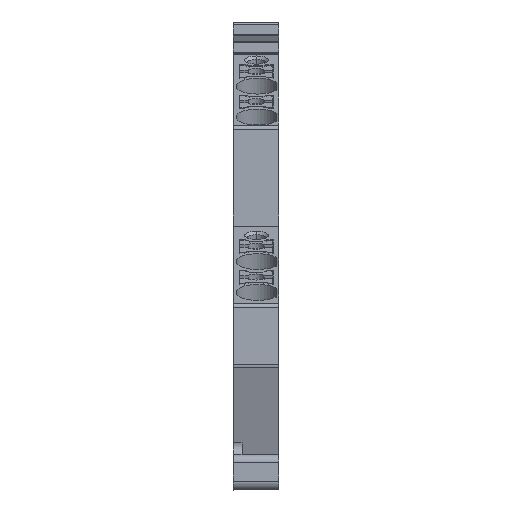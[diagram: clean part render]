
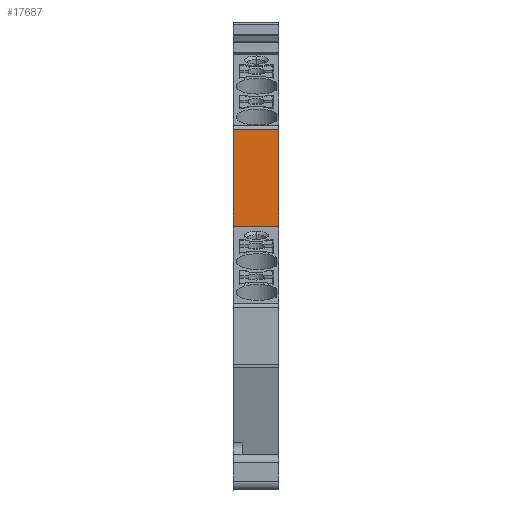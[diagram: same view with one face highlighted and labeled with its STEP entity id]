
A CAD part, front view. The second image highlights one B-rep face of the part: STEP entity #17687.
In plain terms, the highlighted planar face has unit normal (0, -1, 0).
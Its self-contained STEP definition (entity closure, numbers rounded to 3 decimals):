
#175 = EDGE_LOOP ( 'NONE', ( #16753, #10204, #11575, #20588 ) ) ;
#764 = LINE ( 'NONE', #19160, #9805 ) ;
#1298 = CARTESIAN_POINT ( 'NONE',  ( 5.15, 24.371, 29.891 ) ) ;
#1307 = LINE ( 'NONE', #10101, #14283 ) ;
#1752 = EDGE_CURVE ( 'NONE', #18886, #21606, #1307, .T. ) ;
#2639 = DIRECTION ( 'NONE',  ( -1., 0., 0. ) ) ;
#3005 = DIRECTION ( 'NONE',  ( 1., 0., 0. ) ) ;
#3350 = VERTEX_POINT ( 'NONE', #21467 ) ;
#4081 = DIRECTION ( 'NONE',  ( 0., 0., -1. ) ) ;
#4195 = FACE_OUTER_BOUND ( 'NONE', #175, .T. ) ;
#5467 = AXIS2_PLACEMENT_3D ( 'NONE', #7975, #22481, #4081 ) ;
#6542 = VECTOR ( 'NONE', #22495, 1000. ) ;
#7975 = CARTESIAN_POINT ( 'NONE',  ( 2.575, 24.371, 35.356 ) ) ;
#8331 = CARTESIAN_POINT ( 'NONE',  ( 5.15, 24.371, 40.821 ) ) ;
#9157 = EDGE_CURVE ( 'NONE', #17533, #21606, #18916, .T. ) ;
#9805 = VECTOR ( 'NONE', #3005, 1000. ) ;
#10101 = CARTESIAN_POINT ( 'NONE',  ( 0., 24.371, 40.821 ) ) ;
#10204 = ORIENTED_EDGE ( 'NONE', *, *, #21758, .F. ) ;
#10524 = CARTESIAN_POINT ( 'NONE',  ( 0., 24.371, 29.891 ) ) ;
#10974 = CARTESIAN_POINT ( 'NONE',  ( 5.15, 24.371, 29.891 ) ) ;
#11575 = ORIENTED_EDGE ( 'NONE', *, *, #1752, .T. ) ;
#11802 = LINE ( 'NONE', #8331, #6542 ) ;
#14283 = VECTOR ( 'NONE', #19151, 1000. ) ;
#16753 = ORIENTED_EDGE ( 'NONE', *, *, #20345, .F. ) ;
#17533 = VERTEX_POINT ( 'NONE', #10974 ) ;
#17687 = ADVANCED_FACE ( 'NONE', ( #4195 ), #20721, .T. ) ;
#18886 = VERTEX_POINT ( 'NONE', #20822 ) ;
#18916 = LINE ( 'NONE', #1298, #20636 ) ;
#19151 = DIRECTION ( 'NONE',  ( 0., 0., -1. ) ) ;
#19160 = CARTESIAN_POINT ( 'NONE',  ( 0., 24.371, 40.821 ) ) ;
#20345 = EDGE_CURVE ( 'NONE', #3350, #17533, #11802, .T. ) ;
#20588 = ORIENTED_EDGE ( 'NONE', *, *, #9157, .F. ) ;
#20636 = VECTOR ( 'NONE', #2639, 1000. ) ;
#20721 = PLANE ( 'NONE',  #5467 ) ;
#20822 = CARTESIAN_POINT ( 'NONE',  ( 0., 24.371, 40.821 ) ) ;
#21467 = CARTESIAN_POINT ( 'NONE',  ( 5.15, 24.371, 40.821 ) ) ;
#21606 = VERTEX_POINT ( 'NONE', #10524 ) ;
#21758 = EDGE_CURVE ( 'NONE', #18886, #3350, #764, .T. ) ;
#22481 = DIRECTION ( 'NONE',  ( 0., -1., 0. ) ) ;
#22495 = DIRECTION ( 'NONE',  ( 0., 0., -1. ) ) ;
